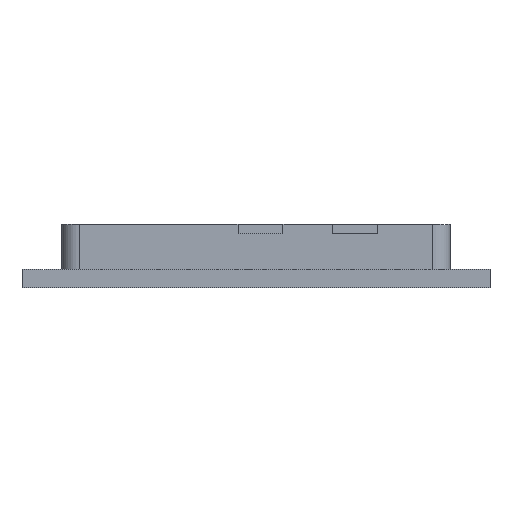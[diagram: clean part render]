
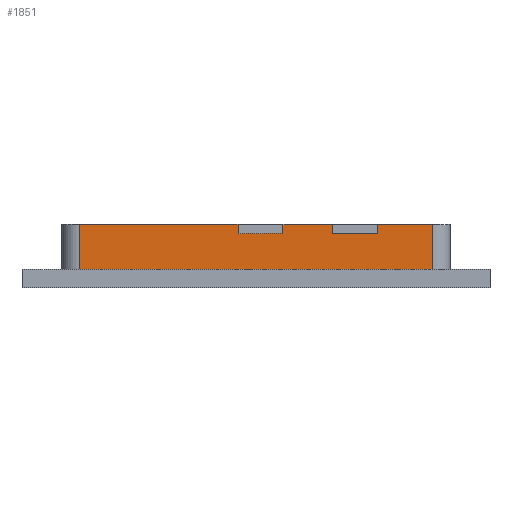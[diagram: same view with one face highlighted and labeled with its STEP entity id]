
A CAD part, front view. The second image highlights one B-rep face of the part: STEP entity #1851.
In plain terms, the highlighted planar face has unit normal (0, -1, 0).
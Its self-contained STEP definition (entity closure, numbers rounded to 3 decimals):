
#533=CARTESIAN_POINT('Vertex',(19.6,-28.975,2.)) ;
#536=CARTESIAN_POINT('Line Origine',(0.,-28.975,2.)) ;
#540=CARTESIAN_POINT('Vertex',(-19.6,-28.975,2.)) ;
#1271=CARTESIAN_POINT('Vertex',(19.6,-28.975,7.)) ;
#1274=CARTESIAN_POINT('Line Origine',(19.6,-28.975,4.5)) ;
#1295=CARTESIAN_POINT('Vertex',(-19.6,-28.975,7.)) ;
#1305=CARTESIAN_POINT('Line Origine',(-19.6,-28.975,4.5)) ;
#1650=CARTESIAN_POINT('Vertex',(3.,-28.975,7.)) ;
#1653=CARTESIAN_POINT('Line Origine',(5.75,-28.975,7.)) ;
#1657=CARTESIAN_POINT('Vertex',(8.5,-28.975,7.)) ;
#1672=CARTESIAN_POINT('Line Origine',(16.55,-28.975,7.)) ;
#1676=CARTESIAN_POINT('Vertex',(13.5,-28.975,7.)) ;
#1711=CARTESIAN_POINT('Line Origine',(-10.8,-28.975,7.)) ;
#1715=CARTESIAN_POINT('Vertex',(-2.,-28.975,7.)) ;
#1794=CARTESIAN_POINT('Axis2P3D Location',(21.6,-28.975,2.)) ;
#1799=CARTESIAN_POINT('Line Origine',(3.,-28.975,6.5)) ;
#1803=CARTESIAN_POINT('Vertex',(3.,-28.975,6.)) ;
#1806=CARTESIAN_POINT('Line Origine',(0.5,-28.975,6.)) ;
#1810=CARTESIAN_POINT('Vertex',(-2.,-28.975,6.)) ;
#1813=CARTESIAN_POINT('Line Origine',(-2.,-28.975,6.5)) ;
#1818=CARTESIAN_POINT('Line Origine',(13.5,-28.975,6.5)) ;
#1822=CARTESIAN_POINT('Vertex',(13.5,-28.975,6.)) ;
#1825=CARTESIAN_POINT('Line Origine',(11.,-28.975,6.)) ;
#1829=CARTESIAN_POINT('Vertex',(8.5,-28.975,6.)) ;
#1832=CARTESIAN_POINT('Line Origine',(8.5,-28.975,6.5)) ;
#537=DIRECTION('Vector Direction',(-1.,0.,0.)) ;
#1275=DIRECTION('Vector Direction',(0.,0.,1.)) ;
#1306=DIRECTION('Vector Direction',(0.,0.,1.)) ;
#1654=DIRECTION('Vector Direction',(-1.,0.,0.)) ;
#1673=DIRECTION('Vector Direction',(-1.,0.,0.)) ;
#1712=DIRECTION('Vector Direction',(-1.,0.,0.)) ;
#1795=DIRECTION('Axis2P3D Direction',(0.,1.,-0.)) ;
#1796=DIRECTION('Axis2P3D XDirection',(-1.,0.,0.)) ;
#1800=DIRECTION('Vector Direction',(0.,0.,-1.)) ;
#1807=DIRECTION('Vector Direction',(1.,0.,0.)) ;
#1814=DIRECTION('Vector Direction',(0.,0.,-1.)) ;
#1819=DIRECTION('Vector Direction',(0.,0.,-1.)) ;
#1826=DIRECTION('Vector Direction',(1.,0.,0.)) ;
#1833=DIRECTION('Vector Direction',(0.,0.,-1.)) ;
#1797=AXIS2_PLACEMENT_3D('Plane Axis2P3D',#1794,#1795,#1796) ;
#1838=ORIENTED_EDGE('',*,*,#1805,.T.) ;
#1839=ORIENTED_EDGE('',*,*,#1812,.F.) ;
#1840=ORIENTED_EDGE('',*,*,#1817,.F.) ;
#1841=ORIENTED_EDGE('',*,*,#1717,.F.) ;
#1842=ORIENTED_EDGE('',*,*,#1309,.F.) ;
#1843=ORIENTED_EDGE('',*,*,#542,.T.) ;
#1844=ORIENTED_EDGE('',*,*,#1278,.T.) ;
#1845=ORIENTED_EDGE('',*,*,#1678,.F.) ;
#1846=ORIENTED_EDGE('',*,*,#1824,.T.) ;
#1847=ORIENTED_EDGE('',*,*,#1831,.F.) ;
#1848=ORIENTED_EDGE('',*,*,#1836,.F.) ;
#1849=ORIENTED_EDGE('',*,*,#1659,.F.) ;
#538=VECTOR('Line Direction',#537,1.) ;
#1276=VECTOR('Line Direction',#1275,1.) ;
#1307=VECTOR('Line Direction',#1306,1.) ;
#1655=VECTOR('Line Direction',#1654,1.) ;
#1674=VECTOR('Line Direction',#1673,1.) ;
#1713=VECTOR('Line Direction',#1712,1.) ;
#1801=VECTOR('Line Direction',#1800,1.) ;
#1808=VECTOR('Line Direction',#1807,1.) ;
#1815=VECTOR('Line Direction',#1814,1.) ;
#1820=VECTOR('Line Direction',#1819,1.) ;
#1827=VECTOR('Line Direction',#1826,1.) ;
#1834=VECTOR('Line Direction',#1833,1.) ;
#1851=ADVANCED_FACE('PartBody',(#1850),#1798,.F.) ;
#542=EDGE_CURVE('',#541,#534,#539,.F.) ;
#1278=EDGE_CURVE('',#534,#1272,#1277,.T.) ;
#1309=EDGE_CURVE('',#541,#1296,#1308,.T.) ;
#1659=EDGE_CURVE('',#1651,#1658,#1656,.F.) ;
#1678=EDGE_CURVE('',#1677,#1272,#1675,.F.) ;
#1717=EDGE_CURVE('',#1296,#1716,#1714,.F.) ;
#1805=EDGE_CURVE('',#1651,#1804,#1802,.T.) ;
#1812=EDGE_CURVE('',#1811,#1804,#1809,.T.) ;
#1817=EDGE_CURVE('',#1716,#1811,#1816,.T.) ;
#1824=EDGE_CURVE('',#1677,#1823,#1821,.T.) ;
#1831=EDGE_CURVE('',#1830,#1823,#1828,.T.) ;
#1836=EDGE_CURVE('',#1658,#1830,#1835,.T.) ;
#1837=EDGE_LOOP('',(#1838,#1839,#1840,#1841,#1842,#1843,#1844,#1845,#1846,#1847,#1848,#1849)) ;
#1850=FACE_OUTER_BOUND('',#1837,.T.) ;
#539=LINE('Line',#536,#538) ;
#1277=LINE('Line',#1274,#1276) ;
#1308=LINE('Line',#1305,#1307) ;
#1656=LINE('Line',#1653,#1655) ;
#1675=LINE('Line',#1672,#1674) ;
#1714=LINE('Line',#1711,#1713) ;
#1802=LINE('Line',#1799,#1801) ;
#1809=LINE('Line',#1806,#1808) ;
#1816=LINE('Line',#1813,#1815) ;
#1821=LINE('Line',#1818,#1820) ;
#1828=LINE('Line',#1825,#1827) ;
#1835=LINE('Line',#1832,#1834) ;
#1798=PLANE('Plane',#1797) ;
#534=VERTEX_POINT('',#533) ;
#541=VERTEX_POINT('',#540) ;
#1272=VERTEX_POINT('',#1271) ;
#1296=VERTEX_POINT('',#1295) ;
#1651=VERTEX_POINT('',#1650) ;
#1658=VERTEX_POINT('',#1657) ;
#1677=VERTEX_POINT('',#1676) ;
#1716=VERTEX_POINT('',#1715) ;
#1804=VERTEX_POINT('',#1803) ;
#1811=VERTEX_POINT('',#1810) ;
#1823=VERTEX_POINT('',#1822) ;
#1830=VERTEX_POINT('',#1829) ;
